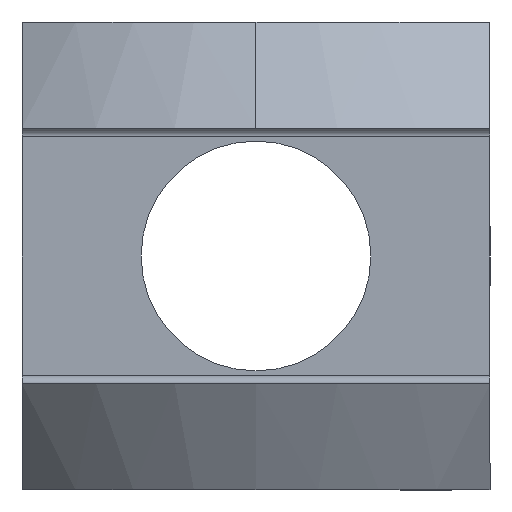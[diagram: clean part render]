
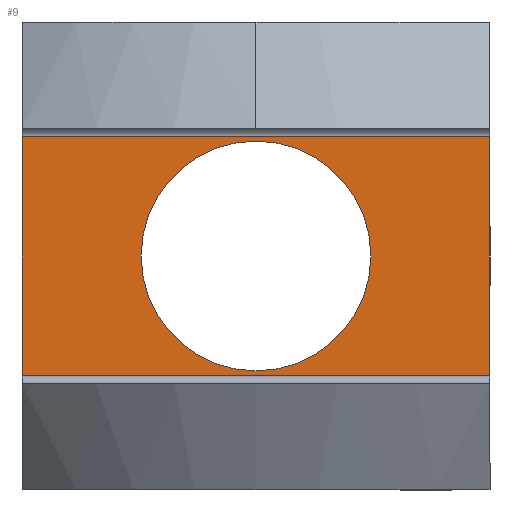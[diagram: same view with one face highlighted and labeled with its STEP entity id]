
A CAD part, left-side view. The second image highlights one B-rep face of the part: STEP entity #9.
In plain terms, the highlighted planar face has unit normal (-1, 0, 0).
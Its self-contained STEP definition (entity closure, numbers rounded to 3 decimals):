
#1 = EDGE_LOOP ( 'NONE', ( #29, #25, #23, #142 ) ) ;
#2 = ORIENTED_EDGE ( 'NONE', *, *, #168, .T. ) ;
#3 = EDGE_CURVE ( 'NONE', #166, #167, #396, .T. ) ;
#4 = EDGE_LOOP ( 'NONE', ( #8, #2 ) ) ;
#5 = EDGE_CURVE ( 'NONE', #324, #302, #391, .T. ) ;
#8 = ORIENTED_EDGE ( 'NONE', *, *, #3, .T. ) ;
#9 = ADVANCED_FACE ( 'NONE', ( #387, #386 ), #385, .F. ) ;
#23 = ORIENTED_EDGE ( 'NONE', *, *, #322, .T. ) ;
#24 = EDGE_CURVE ( 'NONE', #136, #325, #425, .T. ) ;
#25 = ORIENTED_EDGE ( 'NONE', *, *, #24, .T. ) ;
#29 = ORIENTED_EDGE ( 'NONE', *, *, #306, .F. ) ;
#136 = VERTEX_POINT ( 'NONE', #602 ) ;
#142 = ORIENTED_EDGE ( 'NONE', *, *, #5, .T. ) ;
#166 = VERTEX_POINT ( 'NONE', #648 ) ;
#167 = VERTEX_POINT ( 'NONE', #647 ) ;
#168 = EDGE_CURVE ( 'NONE', #167, #166, #708, .T. ) ;
#302 = VERTEX_POINT ( 'NONE', #901 ) ;
#306 = EDGE_CURVE ( 'NONE', #136, #302, #899, .T. ) ;
#322 = EDGE_CURVE ( 'NONE', #325, #324, #964, .T. ) ;
#324 = VERTEX_POINT ( 'NONE', #956 ) ;
#325 = VERTEX_POINT ( 'NONE', #955 ) ;
#381 = DIRECTION ( 'NONE',  ( 0., 0., -1. ) ) ;
#382 = DIRECTION ( 'NONE',  ( 1., 0., 0. ) ) ;
#383 = CARTESIAN_POINT ( 'NONE',  ( -56., -27.5, -15. ) ) ;
#384 = AXIS2_PLACEMENT_3D ( 'NONE', #383, #382, #381 ) ;
#385 = PLANE ( 'NONE',  #384 ) ;
#386 = FACE_OUTER_BOUND ( 'NONE', #1, .T. ) ;
#387 = FACE_BOUND ( 'NONE', #4, .T. ) ;
#388 = DIRECTION ( 'NONE',  ( 0., -1., 0. ) ) ;
#389 = VECTOR ( 'NONE', #388, 1000. ) ;
#390 = CARTESIAN_POINT ( 'NONE',  ( -56., -27.5, -14. ) ) ;
#391 = LINE ( 'NONE', #390, #389 ) ;
#392 = DIRECTION ( 'NONE',  ( 0., 0., -1. ) ) ;
#393 = DIRECTION ( 'NONE',  ( 1., 0., 0. ) ) ;
#394 = CARTESIAN_POINT ( 'NONE',  ( -56., 0., 0. ) ) ;
#395 = AXIS2_PLACEMENT_3D ( 'NONE', #394, #393, #392 ) ;
#396 = CIRCLE ( 'NONE', #395, 13.5 ) ;
#422 = DIRECTION ( 'NONE',  ( 0., 1., 0. ) ) ;
#423 = VECTOR ( 'NONE', #422, 1000. ) ;
#424 = CARTESIAN_POINT ( 'NONE',  ( -56., 27.5, 14. ) ) ;
#425 = LINE ( 'NONE', #424, #423 ) ;
#602 = CARTESIAN_POINT ( 'NONE',  ( -56., -27.5, 14. ) ) ;
#647 = CARTESIAN_POINT ( 'NONE',  ( -56., 0., 13.5 ) ) ;
#648 = CARTESIAN_POINT ( 'NONE',  ( -56., 0., -13.5 ) ) ;
#704 = DIRECTION ( 'NONE',  ( 0., 0., -1. ) ) ;
#705 = DIRECTION ( 'NONE',  ( 1., 0., 0. ) ) ;
#706 = CARTESIAN_POINT ( 'NONE',  ( -56., 0., 0. ) ) ;
#707 = AXIS2_PLACEMENT_3D ( 'NONE', #706, #705, #704 ) ;
#708 = CIRCLE ( 'NONE', #707, 13.5 ) ;
#896 = DIRECTION ( 'NONE',  ( 0., 0., -1. ) ) ;
#897 = VECTOR ( 'NONE', #896, 1000. ) ;
#898 = CARTESIAN_POINT ( 'NONE',  ( -56., -27.5, -15. ) ) ;
#899 = LINE ( 'NONE', #898, #897 ) ;
#901 = CARTESIAN_POINT ( 'NONE',  ( -56., -27.5, -14. ) ) ;
#955 = CARTESIAN_POINT ( 'NONE',  ( -56., 27.5, 14. ) ) ;
#956 = CARTESIAN_POINT ( 'NONE',  ( -56., 27.5, -14. ) ) ;
#957 = DIRECTION ( 'NONE',  ( 0., 0., -1. ) ) ;
#958 = VECTOR ( 'NONE', #957, 1000. ) ;
#959 = CARTESIAN_POINT ( 'NONE',  ( -56., 27.5, -15. ) ) ;
#964 = LINE ( 'NONE', #959, #958 ) ;
